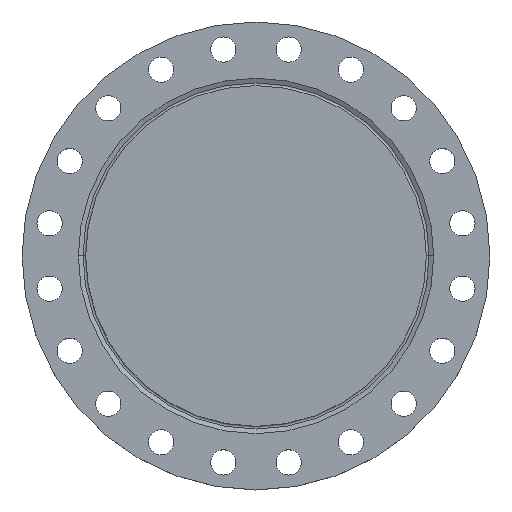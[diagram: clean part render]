
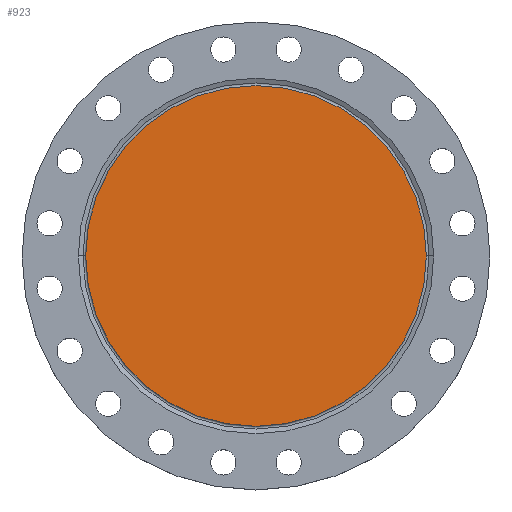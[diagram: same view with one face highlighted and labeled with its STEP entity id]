
A CAD part, top view. The second image highlights one B-rep face of the part: STEP entity #923.
In plain terms, the highlighted planar face has unit normal (0, 0, 1).
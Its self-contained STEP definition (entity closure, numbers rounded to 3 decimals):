
#38 = PLANE ( 'NONE',  #537 ) ;
#164 = CARTESIAN_POINT ( 'NONE',  ( -324., 0., 0. ) ) ;
#399 = AXIS2_PLACEMENT_3D ( 'NONE', #904, #1606, #785 ) ;
#497 = DIRECTION ( 'NONE',  ( 1., 0., 0. ) ) ;
#537 = AXIS2_PLACEMENT_3D ( 'NONE', #1890, #1237, #497 ) ;
#673 = CARTESIAN_POINT ( 'NONE',  ( 324., 0., 0. ) ) ;
#677 = DIRECTION ( 'NONE',  ( -1., 0., 0. ) ) ;
#759 = AXIS2_PLACEMENT_3D ( 'NONE', #995, #825, #677 ) ;
#780 = EDGE_CURVE ( 'NONE', #1552, #957, #787, .T. ) ;
#785 = DIRECTION ( 'NONE',  ( -1., 0., 0. ) ) ;
#786 = FACE_OUTER_BOUND ( 'NONE', #1115, .T. ) ;
#787 = CIRCLE ( 'NONE', #759, 324. ) ;
#825 = DIRECTION ( 'NONE',  ( 0., 0., -1. ) ) ;
#862 = ORIENTED_EDGE ( 'NONE', *, *, #780, .F. ) ;
#904 = CARTESIAN_POINT ( 'NONE',  ( 0., 0., 0. ) ) ;
#923 = ADVANCED_FACE ( 'NONE', ( #786 ), #38, .T. ) ;
#957 = VERTEX_POINT ( 'NONE', #673 ) ;
#995 = CARTESIAN_POINT ( 'NONE',  ( 0., 0., 0. ) ) ;
#1115 = EDGE_LOOP ( 'NONE', ( #862, #1390 ) ) ;
#1237 = DIRECTION ( 'NONE',  ( 0., 0., 1. ) ) ;
#1390 = ORIENTED_EDGE ( 'NONE', *, *, #1458, .F. ) ;
#1458 = EDGE_CURVE ( 'NONE', #957, #1552, #1899, .T. ) ;
#1552 = VERTEX_POINT ( 'NONE', #164 ) ;
#1606 = DIRECTION ( 'NONE',  ( 0., 0., -1. ) ) ;
#1890 = CARTESIAN_POINT ( 'NONE',  ( 0., 0., 0. ) ) ;
#1899 = CIRCLE ( 'NONE', #399, 324. ) ;
